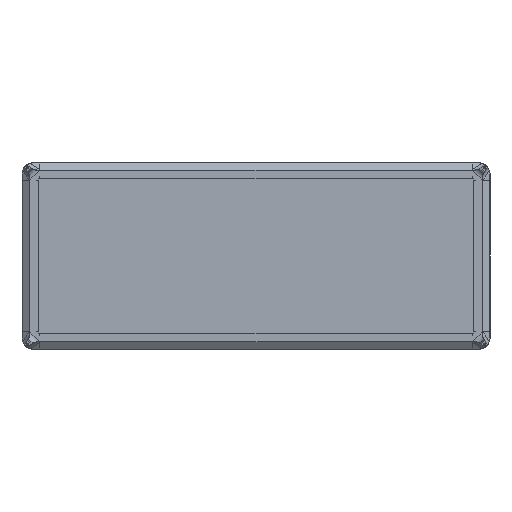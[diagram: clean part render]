
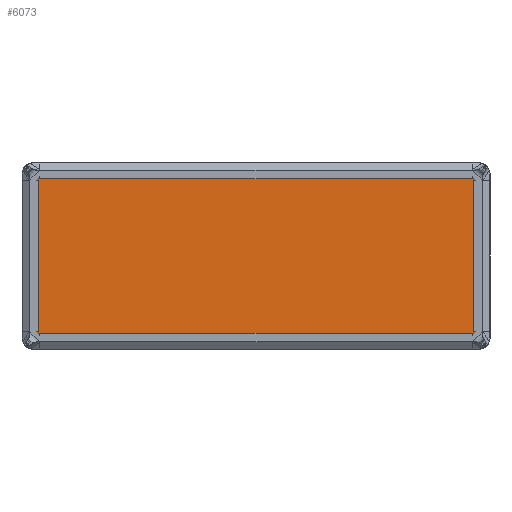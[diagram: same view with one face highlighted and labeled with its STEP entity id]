
A CAD part, front view. The second image highlights one B-rep face of the part: STEP entity #6073.
In plain terms, the highlighted planar face has unit normal (0, -1, 0).
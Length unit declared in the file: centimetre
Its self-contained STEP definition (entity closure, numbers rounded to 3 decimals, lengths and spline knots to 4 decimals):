
#597=LINE('',#11387,#1141);
#598=LINE('',#11391,#1142);
#599=LINE('',#11395,#1143);
#600=LINE('',#11399,#1144);
#1141=VECTOR('',#8204,237.6);
#1142=VECTOR('',#8207,87.6);
#1143=VECTOR('',#8210,237.6);
#1144=VECTOR('',#8213,87.6);
#1395=PLANE('',#6626);
#1702=FACE_OUTER_BOUND('',#2175,.T.);
#2175=EDGE_LOOP('',(#5421,#5422,#5423,#5424,#5425,#5426,#5427,#5428));
#2409=CIRCLE('',#6627,5.9);
#2410=CIRCLE('',#6628,5.9);
#2411=CIRCLE('',#6629,5.9);
#2412=CIRCLE('',#6630,5.9);
#2929=VERTEX_POINT('',#11385);
#2930=VERTEX_POINT('',#11386);
#2931=VERTEX_POINT('',#11388);
#2932=VERTEX_POINT('',#11390);
#2933=VERTEX_POINT('',#11392);
#2934=VERTEX_POINT('',#11394);
#2935=VERTEX_POINT('',#11396);
#2936=VERTEX_POINT('',#11398);
#3757=EDGE_CURVE('',#2929,#2930,#597,.T.);
#3758=EDGE_CURVE('',#2931,#2929,#2409,.T.);
#3759=EDGE_CURVE('',#2932,#2931,#598,.T.);
#3760=EDGE_CURVE('',#2933,#2932,#2410,.T.);
#3761=EDGE_CURVE('',#2934,#2933,#599,.T.);
#3762=EDGE_CURVE('',#2935,#2934,#2411,.T.);
#3763=EDGE_CURVE('',#2936,#2935,#600,.T.);
#3764=EDGE_CURVE('',#2930,#2936,#2412,.T.);
#5421=ORIENTED_EDGE('',*,*,#3757,.F.);
#5422=ORIENTED_EDGE('',*,*,#3758,.F.);
#5423=ORIENTED_EDGE('',*,*,#3759,.F.);
#5424=ORIENTED_EDGE('',*,*,#3760,.F.);
#5425=ORIENTED_EDGE('',*,*,#3761,.F.);
#5426=ORIENTED_EDGE('',*,*,#3762,.F.);
#5427=ORIENTED_EDGE('',*,*,#3763,.F.);
#5428=ORIENTED_EDGE('',*,*,#3764,.F.);
#6073=ADVANCED_FACE('',(#1702),#1395,.F.);
#6626=AXIS2_PLACEMENT_3D('',#11384,#8202,#8203);
#6627=AXIS2_PLACEMENT_3D('',#11389,#8205,#8206);
#6628=AXIS2_PLACEMENT_3D('',#11393,#8208,#8209);
#6629=AXIS2_PLACEMENT_3D('',#11397,#8211,#8212);
#6630=AXIS2_PLACEMENT_3D('',#11400,#8214,#8215);
#8202=DIRECTION('center_axis',(0.,1.,0.));
#8203=DIRECTION('ref_axis',(-1.,0.,0.));
#8204=DIRECTION('',(-1.,0.,0.));
#8205=DIRECTION('center_axis',(0.,1.,0.));
#8206=DIRECTION('ref_axis',(0.707,0.,-0.707));
#8207=DIRECTION('',(0.,0.,-1.));
#8208=DIRECTION('center_axis',(0.,1.,0.));
#8209=DIRECTION('ref_axis',(0.707,0.,0.707));
#8210=DIRECTION('',(1.,0.,0.));
#8211=DIRECTION('center_axis',(0.,1.,0.));
#8212=DIRECTION('ref_axis',(-0.707,0.,0.707));
#8213=DIRECTION('',(0.,0.,1.));
#8214=DIRECTION('center_axis',(0.,1.,0.));
#8215=DIRECTION('ref_axis',(-0.707,0.,-0.707));
#11384=CARTESIAN_POINT('Origin',(64.7963,1.7849,-35.5));
#11385=CARTESIAN_POINT('',(183.5963,1.7849,-85.2));
#11386=CARTESIAN_POINT('',(-54.0037,1.7849,-85.2));
#11387=CARTESIAN_POINT('',(2.3963,1.7849,-85.2));
#11388=CARTESIAN_POINT('',(189.4963,1.7849,-79.3));
#11389=CARTESIAN_POINT('Origin',(183.5963,1.7849,-79.3));
#11390=CARTESIAN_POINT('',(189.4963,1.7849,8.3));
#11391=CARTESIAN_POINT('',(189.4963,1.7849,-60.4));
#11392=CARTESIAN_POINT('',(183.5963,1.7849,14.2));
#11393=CARTESIAN_POINT('Origin',(183.5963,1.7849,8.3));
#11394=CARTESIAN_POINT('',(-54.0037,1.7849,14.2));
#11395=CARTESIAN_POINT('',(127.1963,1.7849,14.2));
#11396=CARTESIAN_POINT('',(-59.9037,1.7849,8.3));
#11397=CARTESIAN_POINT('Origin',(-54.0037,1.7849,8.3));
#11398=CARTESIAN_POINT('',(-59.9037,1.7849,-79.3));
#11399=CARTESIAN_POINT('',(-59.9037,1.7849,-10.6));
#11400=CARTESIAN_POINT('Origin',(-54.0037,1.7849,-79.3));
